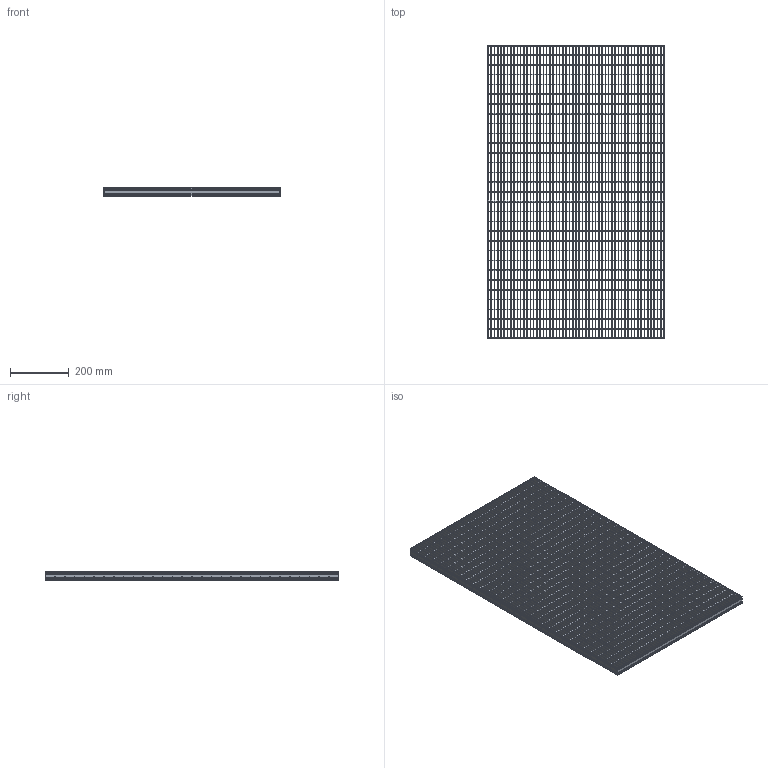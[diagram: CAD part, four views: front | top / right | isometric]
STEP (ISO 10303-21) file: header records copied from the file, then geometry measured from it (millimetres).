
FILE_DESCRIPTION(/* description */ ('STEP AP242','CAx-IF Rec.Pracs.---Representation and Presentation of Product Manufacturing Information (PMI)---4.0---2014-10-13','CAx-IF Rec.Pracs.---3D Tessellated Geometry---0.4---2014-09-14','2;1'),/* implementation_level */ '2;1');
FILE_NAME(/* name */ 'Lichtgitter_Pressure_locked_gratings P 230-33_11-2-1-1-600-1000_(350_0)',/* time_stamp */ '2026-04-23T10:10:46+02:00',/* author */ ('License CC BY-ND 4.0'),/* organization */ ('CADENAS'),/* preprocessor_version */ 'ST-DEVELOPER v20',/* originating_system */ 'PARTsolutions',/* authorisation */ ' ');
FILE_SCHEMA (('AP242_MANAGED_MODEL_BASED_3D_ENGINEERING_MIM_LF { 1 0 10303 442 1 1 4 }'));
Length unit declared in the file: millimetre
Products named in the file (5): Lichtgitter_Pressure_locked_gratings P 230-33/11-2-1-1-600-1000_(350_
0); Lichtgitter P 230-11.11/33-2_(Pressroste_350_1_1000_600)_VERTICAL; Lichtgitter P 230-11.11/33-2_(Pressroste_350_1_1000_600)_HORIZONTAL_C; Lichtgitter P 230-11.11/33-2_(Pressroste_350_1_1000_600)_HORIZONTAL; Lichtgitter P 230-11.11/33-2_(Pressroste_350_1_1000_600)_VERTICAL_C
Assembly tree (86 placements, depth 2):
  Lichtgitter_Pressure_locked_gratings P 230-33/11-2-1-1-600-1000_(350_
0)
    Lichtgitter P 230-11.11/33-2_(Pressroste_350_1_1000_600)_VERTICAL  x2
    Lichtgitter P 230-11.11/33-2_(Pressroste_350_1_1000_600)_HORIZONTAL_C  x29
    Lichtgitter P 230-11.11/33-2_(Pressroste_350_1_1000_600)_HORIZONTAL  x2
    Lichtgitter P 230-11.11/33-2_(Pressroste_350_1_1000_600)_VERTICAL_C  x53
Bounding box: 600 x 1000 x 30 mm (x, y, z)
Volume: 2249781.8 mm3; surface area: 2598907.6 mm2
Topology: 86 solids, 86 shells, 6712 faces, 19620 edges, 13080 vertices
Faces by surface type: plane 6680, cylinder 32
Entity records: 9207 total; most frequent: CARTESIAN_POINT 1607, ORIENTED_EDGE 1512, DIRECTION 1482, EDGE_CURVE 756, LINE 724, VECTOR 724, VERTEX_POINT 504, AXIS2_PLACEMENT_3D 379
